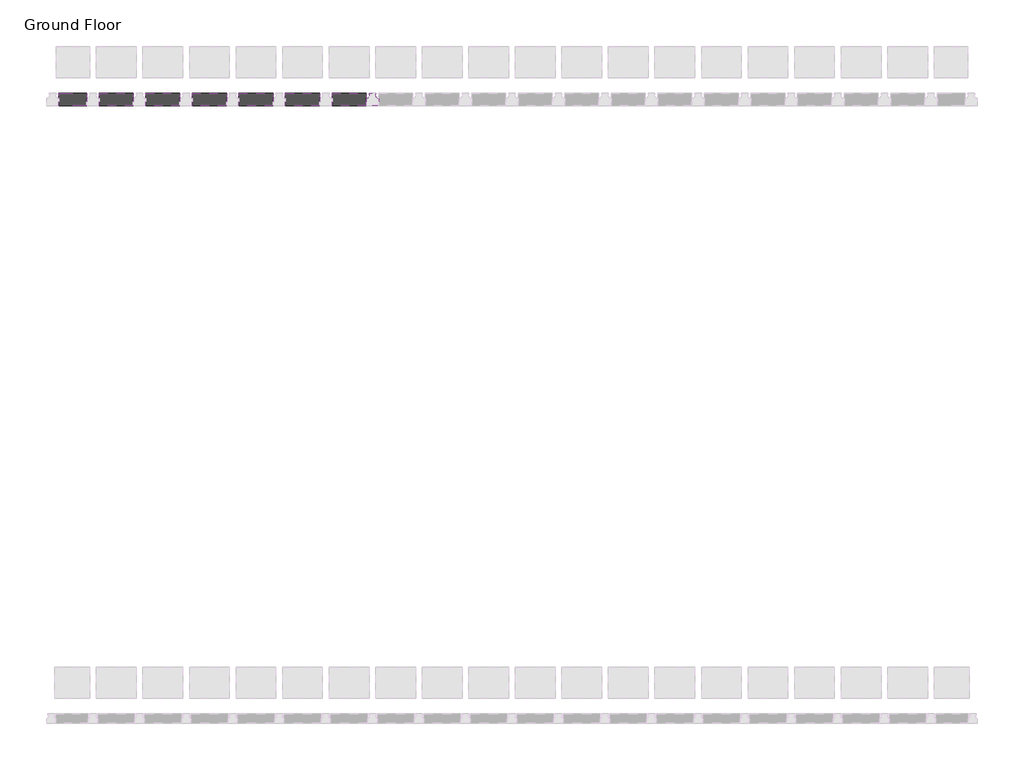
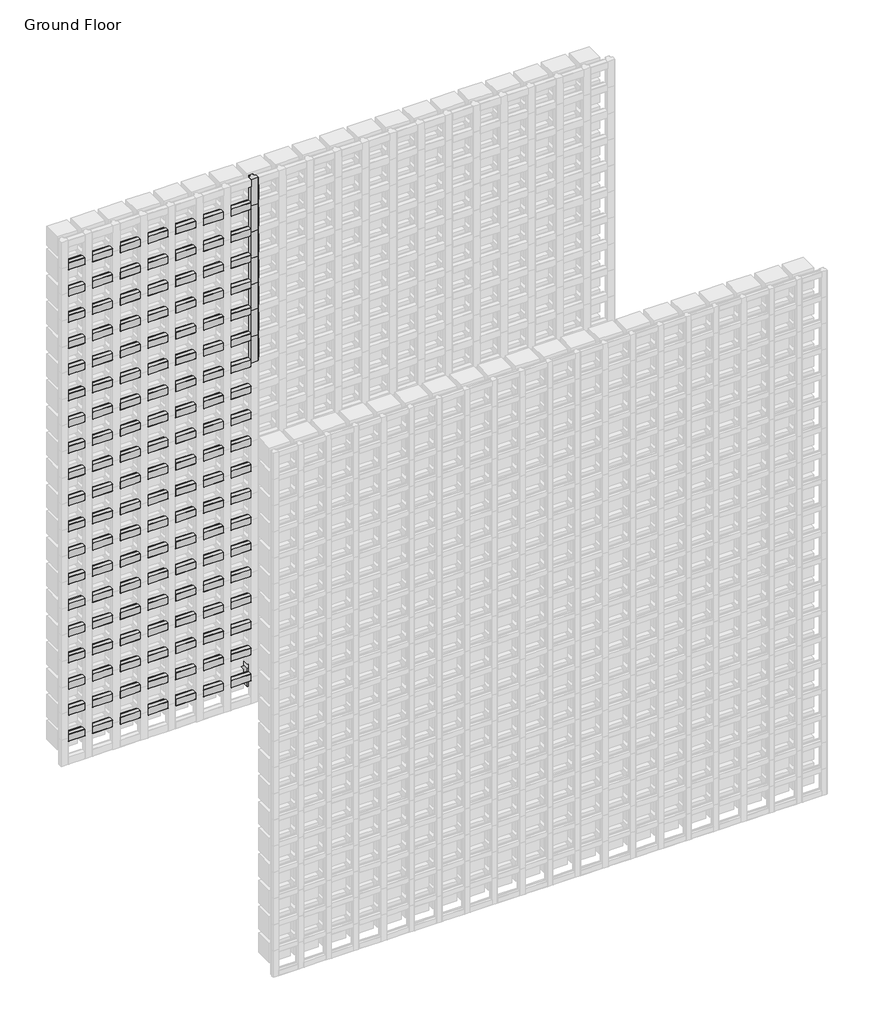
# One storey, part 111 of 350: 140 members, 4 plates.
"""IFC4 building model written with IfcOpenShell, lengths in millimetres."""

from ifc_helpers import new_model, si_unit, origin, place, context, project, spatial, transform, mapped, element, save
from components import rectangular_mullion_84e0df2e, rectangular_mullion_196cc38a, rectangular_mullion_c1c7f7ba, empty_system_panel_empty_5e80e148

model = new_model("IFC4")

# Units and contexts
model_context = context("Model", 3, world=origin())
ifc_project = project(units=[si_unit("LENGTHUNIT", "METRE", prefix="MILLI")], contexts=[model_context])

# Site, building, storey
site = spatial("IfcSite", under=ifc_project)
building = spatial("IfcBuilding", under=site)
storey = spatial("IfcBuildingStorey", under=building, Name="Ground Floor", Elevation=0.0)

# Members
placement = place(None, origin())
rectangular_mullion_shape = rectangular_mullion_84e0df2e(model_context)
element("IfcMember", 1, ObjectType="Rectangular Mullion : Batten_Timber_Modinex_Austratus_Grid_Fin_40x40_AlaskanYellowCedar", at=placement, inside=storey, context=model_context, shape_type="MappedRepresentation", body=[
    mapped(rectangular_mullion_shape, transform((2966.4361642, 44968.2978302, 1950.0), x_axis=(1.0, 0.0, 0.0), y_axis=(0.0, -1.0, 0.0), z_axis=(0.0, 0.0, -1.0))),
])
element("IfcMember", 2, ObjectType="Rectangular Mullion : Batten_Timber_Modinex_Austratus_Grid_Fin_40x40_AlaskanYellowCedar", at=placement, inside=storey, context=model_context, shape_type="MappedRepresentation", body=[
    mapped(rectangular_mullion_shape, transform((2966.4361642, 44968.2978302, 2100.0), x_axis=(1.0, 0.0, 0.0), y_axis=(0.0, -1.0, 0.0), z_axis=(0.0, 0.0, -1.0))),
])
element("IfcMember", 3, ObjectType="Rectangular Mullion : Batten_Timber_Modinex_Austratus_Grid_Fin_40x40_AlaskanYellowCedar", at=placement, inside=storey, context=model_context, shape_type="MappedRepresentation", body=[
    mapped(rectangular_mullion_shape, transform((2966.4361642, 44968.2978302, 2250.0), x_axis=(1.0, 0.0, 0.0), y_axis=(0.0, -1.0, 0.0), z_axis=(0.0, 0.0, -1.0))),
])
element("IfcMember", 4, ObjectType="Rectangular Mullion : Batten_Timber_Modinex_Austratus_Grid_Fin_40x40_AlaskanYellowCedar", at=placement, inside=storey, context=model_context, shape_type="MappedRepresentation", body=[
    mapped(rectangular_mullion_shape, transform((2966.4361642, 44968.2978302, 2400.0), x_axis=(1.0, 0.0, 0.0), y_axis=(0.0, -1.0, 0.0), z_axis=(0.0, 0.0, -1.0))),
])
element("IfcMember", 5, ObjectType="Rectangular Mullion : Batten_Timber_Modinex_Austratus_Grid_Fin_40x40_AlaskanYellowCedar", at=placement, inside=storey, context=model_context, shape_type="MappedRepresentation", body=[
    mapped(rectangular_mullion_shape, transform((2966.4361642, 44968.2978302, 2550.0), x_axis=(1.0, 0.0, 0.0), y_axis=(0.0, -1.0, 0.0), z_axis=(0.0, 0.0, -1.0))),
])
element("IfcMember", 6, ObjectType="Rectangular Mullion : Batten_Timber_Modinex_Austratus_Grid_Fin_40x40_AlaskanYellowCedar", at=placement, inside=storey, context=model_context, shape_type="MappedRepresentation", body=[
    mapped(rectangular_mullion_shape, transform((2966.4361642, 44968.2978302, 2700.0), x_axis=(1.0, 0.0, 0.0), y_axis=(0.0, -1.0, 0.0), z_axis=(0.0, 0.0, -1.0))),
])
element("IfcMember", 7, ObjectType="Rectangular Mullion : Batten_Timber_Modinex_Austratus_Grid_Fin_40x40_AlaskanYellowCedar", at=placement, inside=storey, context=model_context, shape_type="MappedRepresentation", body=[
    mapped(rectangular_mullion_shape, transform((2966.4361642, 44968.2978302, 2850.0), x_axis=(1.0, 0.0, 0.0), y_axis=(0.0, -1.0, 0.0), z_axis=(0.0, 0.0, -1.0))),
])
rectangular_mullion_2_shape = rectangular_mullion_196cc38a(model_context)
element("IfcMember", 8, ObjectType="Rectangular Mullion : Batten_Timber_Modinex_Austratus_Grid_Fin_40x40_AlaskanYellowCedar", at=placement, inside=storey, context=model_context, shape_type="MappedRepresentation", body=[
    mapped(rectangular_mullion_2_shape, transform((2046.4361642, 44968.2978302, 150.0), x_axis=(0.0, 0.0, 1.0), y_axis=(0.0, -1.0, 0.0), z_axis=(1.0, 0.0, 0.0))),
])
element("IfcMember", 9, ObjectType="Rectangular Mullion : Batten_Timber_Modinex_Austratus_Grid_Fin_40x40_AlaskanYellowCedar", at=placement, inside=storey, context=model_context, shape_type="MappedRepresentation", body=[
    mapped(rectangular_mullion_2_shape, transform((2046.4361642, 44968.2978302, 300.0), x_axis=(0.0, 0.0, 1.0), y_axis=(0.0, -1.0, 0.0), z_axis=(1.0, 0.0, 0.0))),
])
element("IfcMember", 10, ObjectType="Rectangular Mullion : Batten_Timber_Modinex_Austratus_Grid_Fin_40x40_AlaskanYellowCedar", at=placement, inside=storey, context=model_context, shape_type="MappedRepresentation", body=[
    mapped(rectangular_mullion_2_shape, transform((2046.4361642, 44968.2978302, 450.0), x_axis=(0.0, 0.0, 1.0), y_axis=(0.0, -1.0, 0.0), z_axis=(1.0, 0.0, 0.0))),
])
element("IfcMember", 11, ObjectType="Rectangular Mullion : Batten_Timber_Modinex_Austratus_Grid_Fin_40x40_AlaskanYellowCedar", at=placement, inside=storey, context=model_context, shape_type="MappedRepresentation", body=[
    mapped(rectangular_mullion_2_shape, transform((2046.4361642, 44968.2978302, 600.0), x_axis=(0.0, 0.0, 1.0), y_axis=(0.0, -1.0, 0.0), z_axis=(1.0, 0.0, 0.0))),
])
element("IfcMember", 12, ObjectType="Rectangular Mullion : Batten_Timber_Modinex_Austratus_Grid_Fin_40x40_AlaskanYellowCedar", at=placement, inside=storey, context=model_context, shape_type="MappedRepresentation", body=[
    mapped(rectangular_mullion_2_shape, transform((2046.4361642, 44968.2978302, 750.0), x_axis=(0.0, 0.0, 1.0), y_axis=(0.0, -1.0, 0.0), z_axis=(1.0, 0.0, 0.0))),
])
element("IfcMember", 13, ObjectType="Rectangular Mullion : Batten_Timber_Modinex_Austratus_Grid_Fin_40x40_AlaskanYellowCedar", at=placement, inside=storey, context=model_context, shape_type="MappedRepresentation", body=[
    mapped(rectangular_mullion_2_shape, transform((2046.4361642, 44968.2978302, 900.0), x_axis=(0.0, 0.0, 1.0), y_axis=(0.0, -1.0, 0.0), z_axis=(1.0, 0.0, 0.0))),
])
element("IfcMember", 14, ObjectType="Rectangular Mullion : Batten_Timber_Modinex_Austratus_Grid_Fin_40x40_AlaskanYellowCedar", at=placement, inside=storey, context=model_context, shape_type="MappedRepresentation", body=[
    mapped(rectangular_mullion_2_shape, transform((2046.4361642, 44968.2978302, 1050.0), x_axis=(0.0, 0.0, 1.0), y_axis=(0.0, -1.0, 0.0), z_axis=(1.0, 0.0, 0.0))),
])
element("IfcMember", 15, ObjectType="Rectangular Mullion : Batten_Timber_Modinex_Austratus_Grid_Fin_40x40_AlaskanYellowCedar", at=placement, inside=storey, context=model_context, shape_type="MappedRepresentation", body=[
    mapped(rectangular_mullion_2_shape, transform((2046.4361642, 44968.2978302, 1200.0), x_axis=(0.0, 0.0, 1.0), y_axis=(0.0, -1.0, 0.0), z_axis=(1.0, 0.0, 0.0))),
])
element("IfcMember", 16, ObjectType="Rectangular Mullion : Batten_Timber_Modinex_Austratus_Grid_Fin_40x40_AlaskanYellowCedar", at=placement, inside=storey, context=model_context, shape_type="MappedRepresentation", body=[
    mapped(rectangular_mullion_2_shape, transform((2046.4361642, 44968.2978302, 1350.0), x_axis=(0.0, 0.0, 1.0), y_axis=(0.0, -1.0, 0.0), z_axis=(1.0, 0.0, 0.0))),
])
element("IfcMember", 17, ObjectType="Rectangular Mullion : Batten_Timber_Modinex_Austratus_Grid_Fin_40x40_AlaskanYellowCedar", at=placement, inside=storey, context=model_context, shape_type="MappedRepresentation", body=[
    mapped(rectangular_mullion_2_shape, transform((2046.4361642, 44968.2978302, 1500.0), x_axis=(0.0, 0.0, 1.0), y_axis=(0.0, -1.0, 0.0), z_axis=(1.0, 0.0, 0.0))),
])
element("IfcMember", 18, ObjectType="Rectangular Mullion : Batten_Timber_Modinex_Austratus_Grid_Fin_40x40_AlaskanYellowCedar", at=placement, inside=storey, context=model_context, shape_type="MappedRepresentation", body=[
    mapped(rectangular_mullion_2_shape, transform((2046.4361642, 44968.2978302, 1650.0), x_axis=(0.0, 0.0, 1.0), y_axis=(0.0, -1.0, 0.0), z_axis=(1.0, 0.0, 0.0))),
])
element("IfcMember", 19, ObjectType="Rectangular Mullion : Batten_Timber_Modinex_Austratus_Grid_Fin_40x40_AlaskanYellowCedar", at=placement, inside=storey, context=model_context, shape_type="MappedRepresentation", body=[
    mapped(rectangular_mullion_2_shape, transform((2046.4361642, 44968.2978302, 1800.0), x_axis=(0.0, 0.0, 1.0), y_axis=(0.0, -1.0, 0.0), z_axis=(1.0, 0.0, 0.0))),
])
element("IfcMember", 20, ObjectType="Rectangular Mullion : Batten_Timber_Modinex_Austratus_Grid_Fin_40x40_AlaskanYellowCedar", at=placement, inside=storey, context=model_context, shape_type="MappedRepresentation", body=[
    mapped(rectangular_mullion_2_shape, transform((2046.4361642, 44968.2978302, 1950.0), x_axis=(0.0, 0.0, 1.0), y_axis=(0.0, -1.0, 0.0), z_axis=(1.0, 0.0, 0.0))),
])
element("IfcMember", 21, ObjectType="Rectangular Mullion : Batten_Timber_Modinex_Austratus_Grid_Fin_40x40_AlaskanYellowCedar", at=placement, inside=storey, context=model_context, shape_type="MappedRepresentation", body=[
    mapped(rectangular_mullion_2_shape, transform((2046.4361642, 44968.2978302, 2100.0), x_axis=(0.0, 0.0, 1.0), y_axis=(0.0, -1.0, 0.0), z_axis=(1.0, 0.0, 0.0))),
])
element("IfcMember", 22, ObjectType="Rectangular Mullion : Batten_Timber_Modinex_Austratus_Grid_Fin_40x40_AlaskanYellowCedar", at=placement, inside=storey, context=model_context, shape_type="MappedRepresentation", body=[
    mapped(rectangular_mullion_2_shape, transform((2046.4361642, 44968.2978302, 2250.0), x_axis=(0.0, 0.0, 1.0), y_axis=(0.0, -1.0, 0.0), z_axis=(1.0, 0.0, 0.0))),
])
element("IfcMember", 23, ObjectType="Rectangular Mullion : Batten_Timber_Modinex_Austratus_Grid_Fin_40x40_AlaskanYellowCedar", at=placement, inside=storey, context=model_context, shape_type="MappedRepresentation", body=[
    mapped(rectangular_mullion_2_shape, transform((2046.4361642, 44968.2978302, 2400.0), x_axis=(0.0, 0.0, 1.0), y_axis=(0.0, -1.0, 0.0), z_axis=(1.0, 0.0, 0.0))),
])
element("IfcMember", 24, ObjectType="Rectangular Mullion : Batten_Timber_Modinex_Austratus_Grid_Fin_40x40_AlaskanYellowCedar", at=placement, inside=storey, context=model_context, shape_type="MappedRepresentation", body=[
    mapped(rectangular_mullion_2_shape, transform((2046.4361642, 44968.2978302, 2550.0), x_axis=(0.0, 0.0, 1.0), y_axis=(0.0, -1.0, 0.0), z_axis=(1.0, 0.0, 0.0))),
])
element("IfcMember", 25, ObjectType="Rectangular Mullion : Batten_Timber_Modinex_Austratus_Grid_Fin_40x40_AlaskanYellowCedar", at=placement, inside=storey, context=model_context, shape_type="MappedRepresentation", body=[
    mapped(rectangular_mullion_2_shape, transform((2046.4361642, 44968.2978302, 2700.0), x_axis=(0.0, 0.0, 1.0), y_axis=(0.0, -1.0, 0.0), z_axis=(1.0, 0.0, 0.0))),
])
element("IfcMember", 26, ObjectType="Rectangular Mullion : Batten_Timber_Modinex_Austratus_Grid_Fin_40x40_AlaskanYellowCedar", at=placement, inside=storey, context=model_context, shape_type="MappedRepresentation", body=[
    mapped(rectangular_mullion_2_shape, transform((2046.4361642, 44968.2978302, 2850.0), x_axis=(0.0, 0.0, 1.0), y_axis=(0.0, -1.0, 0.0), z_axis=(1.0, 0.0, 0.0))),
])
rectangular_mullion_3_shape = rectangular_mullion_c1c7f7ba(model_context)
element("IfcMember", 27, ObjectType="Rectangular Mullion : Batten_Timber_Modinex_Austratus_Grid_Fin_40x40_AlaskanYellowCedar", at=placement, inside=storey, context=model_context, shape_type="MappedRepresentation", body=[
    mapped(rectangular_mullion_3_shape, transform((2196.4361642, 44968.2978302, 150.0), x_axis=(0.0, 0.0, 1.0), y_axis=(0.0, -1.0, 0.0), z_axis=(1.0, 0.0, 0.0))),
])
element("IfcMember", 28, ObjectType="Rectangular Mullion : Batten_Timber_Modinex_Austratus_Grid_Fin_40x40_AlaskanYellowCedar", at=placement, inside=storey, context=model_context, shape_type="MappedRepresentation", body=[
    mapped(rectangular_mullion_3_shape, transform((2346.4361642, 44968.2978302, 150.0), x_axis=(0.0, 0.0, 1.0), y_axis=(0.0, -1.0, 0.0), z_axis=(1.0, 0.0, 0.0))),
])
element("IfcMember", 29, ObjectType="Rectangular Mullion : Batten_Timber_Modinex_Austratus_Grid_Fin_40x40_AlaskanYellowCedar", at=placement, inside=storey, context=model_context, shape_type="MappedRepresentation", body=[
    mapped(rectangular_mullion_3_shape, transform((2496.4361642, 44968.2978302, 150.0), x_axis=(0.0, 0.0, 1.0), y_axis=(0.0, -1.0, 0.0), z_axis=(1.0, 0.0, 0.0))),
])
element("IfcMember", 30, ObjectType="Rectangular Mullion : Batten_Timber_Modinex_Austratus_Grid_Fin_40x40_AlaskanYellowCedar", at=placement, inside=storey, context=model_context, shape_type="MappedRepresentation", body=[
    mapped(rectangular_mullion_3_shape, transform((2646.4361642, 44968.2978302, 150.0), x_axis=(0.0, 0.0, 1.0), y_axis=(0.0, -1.0, 0.0), z_axis=(1.0, 0.0, 0.0))),
])
element("IfcMember", 31, ObjectType="Rectangular Mullion : Batten_Timber_Modinex_Austratus_Grid_Fin_40x40_AlaskanYellowCedar", at=placement, inside=storey, context=model_context, shape_type="MappedRepresentation", body=[
    mapped(rectangular_mullion_3_shape, transform((2796.4361642, 44968.2978302, 150.0), x_axis=(0.0, 0.0, 1.0), y_axis=(0.0, -1.0, 0.0), z_axis=(1.0, 0.0, 0.0))),
])
element("IfcMember", 32, ObjectType="Rectangular Mullion : Batten_Timber_Modinex_Austratus_Grid_Fin_40x40_AlaskanYellowCedar", at=placement, inside=storey, context=model_context, shape_type="MappedRepresentation", body=[
    mapped(rectangular_mullion_3_shape, transform((2946.4361642, 44968.2978302, 150.0), x_axis=(0.0, 0.0, 1.0), y_axis=(0.0, -1.0, 0.0), z_axis=(1.0, 0.0, 0.0))),
])
element("IfcMember", 33, ObjectType="Rectangular Mullion : Batten_Timber_Modinex_Austratus_Grid_Fin_40x40_AlaskanYellowCedar", at=placement, inside=storey, context=model_context, shape_type="MappedRepresentation", body=[
    mapped(rectangular_mullion_3_shape, transform((2196.4361642, 44968.2978302, 300.0), x_axis=(0.0, 0.0, 1.0), y_axis=(0.0, -1.0, 0.0), z_axis=(1.0, 0.0, 0.0))),
])
element("IfcMember", 34, ObjectType="Rectangular Mullion : Batten_Timber_Modinex_Austratus_Grid_Fin_40x40_AlaskanYellowCedar", at=placement, inside=storey, context=model_context, shape_type="MappedRepresentation", body=[
    mapped(rectangular_mullion_3_shape, transform((2346.4361642, 44968.2978302, 300.0), x_axis=(0.0, 0.0, 1.0), y_axis=(0.0, -1.0, 0.0), z_axis=(1.0, 0.0, 0.0))),
])
element("IfcMember", 35, ObjectType="Rectangular Mullion : Batten_Timber_Modinex_Austratus_Grid_Fin_40x40_AlaskanYellowCedar", at=placement, inside=storey, context=model_context, shape_type="MappedRepresentation", body=[
    mapped(rectangular_mullion_3_shape, transform((2496.4361642, 44968.2978302, 300.0), x_axis=(0.0, 0.0, 1.0), y_axis=(0.0, -1.0, 0.0), z_axis=(1.0, 0.0, 0.0))),
])
element("IfcMember", 36, ObjectType="Rectangular Mullion : Batten_Timber_Modinex_Austratus_Grid_Fin_40x40_AlaskanYellowCedar", at=placement, inside=storey, context=model_context, shape_type="MappedRepresentation", body=[
    mapped(rectangular_mullion_3_shape, transform((2646.4361642, 44968.2978302, 300.0), x_axis=(0.0, 0.0, 1.0), y_axis=(0.0, -1.0, 0.0), z_axis=(1.0, 0.0, 0.0))),
])
element("IfcMember", 37, ObjectType="Rectangular Mullion : Batten_Timber_Modinex_Austratus_Grid_Fin_40x40_AlaskanYellowCedar", at=placement, inside=storey, context=model_context, shape_type="MappedRepresentation", body=[
    mapped(rectangular_mullion_3_shape, transform((2796.4361642, 44968.2978302, 300.0), x_axis=(0.0, 0.0, 1.0), y_axis=(0.0, -1.0, 0.0), z_axis=(1.0, 0.0, 0.0))),
])
element("IfcMember", 38, ObjectType="Rectangular Mullion : Batten_Timber_Modinex_Austratus_Grid_Fin_40x40_AlaskanYellowCedar", at=placement, inside=storey, context=model_context, shape_type="MappedRepresentation", body=[
    mapped(rectangular_mullion_3_shape, transform((2946.4361642, 44968.2978302, 300.0), x_axis=(0.0, 0.0, 1.0), y_axis=(0.0, -1.0, 0.0), z_axis=(1.0, 0.0, 0.0))),
])
element("IfcMember", 39, ObjectType="Rectangular Mullion : Batten_Timber_Modinex_Austratus_Grid_Fin_40x40_AlaskanYellowCedar", at=placement, inside=storey, context=model_context, shape_type="MappedRepresentation", body=[
    mapped(rectangular_mullion_3_shape, transform((2196.4361642, 44968.2978302, 450.0), x_axis=(0.0, 0.0, 1.0), y_axis=(0.0, -1.0, 0.0), z_axis=(1.0, 0.0, 0.0))),
])
element("IfcMember", 40, ObjectType="Rectangular Mullion : Batten_Timber_Modinex_Austratus_Grid_Fin_40x40_AlaskanYellowCedar", at=placement, inside=storey, context=model_context, shape_type="MappedRepresentation", body=[
    mapped(rectangular_mullion_3_shape, transform((2346.4361642, 44968.2978302, 450.0), x_axis=(0.0, 0.0, 1.0), y_axis=(0.0, -1.0, 0.0), z_axis=(1.0, 0.0, 0.0))),
])
element("IfcMember", 41, ObjectType="Rectangular Mullion : Batten_Timber_Modinex_Austratus_Grid_Fin_40x40_AlaskanYellowCedar", at=placement, inside=storey, context=model_context, shape_type="MappedRepresentation", body=[
    mapped(rectangular_mullion_3_shape, transform((2496.4361642, 44968.2978302, 450.0), x_axis=(0.0, 0.0, 1.0), y_axis=(0.0, -1.0, 0.0), z_axis=(1.0, 0.0, 0.0))),
])
element("IfcMember", 42, ObjectType="Rectangular Mullion : Batten_Timber_Modinex_Austratus_Grid_Fin_40x40_AlaskanYellowCedar", at=placement, inside=storey, context=model_context, shape_type="MappedRepresentation", body=[
    mapped(rectangular_mullion_3_shape, transform((2646.4361642, 44968.2978302, 450.0), x_axis=(0.0, 0.0, 1.0), y_axis=(0.0, -1.0, 0.0), z_axis=(1.0, 0.0, 0.0))),
])
element("IfcMember", 43, ObjectType="Rectangular Mullion : Batten_Timber_Modinex_Austratus_Grid_Fin_40x40_AlaskanYellowCedar", at=placement, inside=storey, context=model_context, shape_type="MappedRepresentation", body=[
    mapped(rectangular_mullion_3_shape, transform((2796.4361642, 44968.2978302, 450.0), x_axis=(0.0, 0.0, 1.0), y_axis=(0.0, -1.0, 0.0), z_axis=(1.0, 0.0, 0.0))),
])
element("IfcMember", 44, ObjectType="Rectangular Mullion : Batten_Timber_Modinex_Austratus_Grid_Fin_40x40_AlaskanYellowCedar", at=placement, inside=storey, context=model_context, shape_type="MappedRepresentation", body=[
    mapped(rectangular_mullion_3_shape, transform((2946.4361642, 44968.2978302, 450.0), x_axis=(0.0, 0.0, 1.0), y_axis=(0.0, -1.0, 0.0), z_axis=(1.0, 0.0, 0.0))),
])
element("IfcMember", 45, ObjectType="Rectangular Mullion : Batten_Timber_Modinex_Austratus_Grid_Fin_40x40_AlaskanYellowCedar", at=placement, inside=storey, context=model_context, shape_type="MappedRepresentation", body=[
    mapped(rectangular_mullion_3_shape, transform((2196.4361642, 44968.2978302, 600.0), x_axis=(0.0, 0.0, 1.0), y_axis=(0.0, -1.0, 0.0), z_axis=(1.0, 0.0, 0.0))),
])
element("IfcMember", 46, ObjectType="Rectangular Mullion : Batten_Timber_Modinex_Austratus_Grid_Fin_40x40_AlaskanYellowCedar", at=placement, inside=storey, context=model_context, shape_type="MappedRepresentation", body=[
    mapped(rectangular_mullion_3_shape, transform((2346.4361642, 44968.2978302, 600.0), x_axis=(0.0, 0.0, 1.0), y_axis=(0.0, -1.0, 0.0), z_axis=(1.0, 0.0, 0.0))),
])
element("IfcMember", 47, ObjectType="Rectangular Mullion : Batten_Timber_Modinex_Austratus_Grid_Fin_40x40_AlaskanYellowCedar", at=placement, inside=storey, context=model_context, shape_type="MappedRepresentation", body=[
    mapped(rectangular_mullion_3_shape, transform((2496.4361642, 44968.2978302, 600.0), x_axis=(0.0, 0.0, 1.0), y_axis=(0.0, -1.0, 0.0), z_axis=(1.0, 0.0, 0.0))),
])
element("IfcMember", 48, ObjectType="Rectangular Mullion : Batten_Timber_Modinex_Austratus_Grid_Fin_40x40_AlaskanYellowCedar", at=placement, inside=storey, context=model_context, shape_type="MappedRepresentation", body=[
    mapped(rectangular_mullion_3_shape, transform((2646.4361642, 44968.2978302, 600.0), x_axis=(0.0, 0.0, 1.0), y_axis=(0.0, -1.0, 0.0), z_axis=(1.0, 0.0, 0.0))),
])
element("IfcMember", 49, ObjectType="Rectangular Mullion : Batten_Timber_Modinex_Austratus_Grid_Fin_40x40_AlaskanYellowCedar", at=placement, inside=storey, context=model_context, shape_type="MappedRepresentation", body=[
    mapped(rectangular_mullion_3_shape, transform((2796.4361642, 44968.2978302, 600.0), x_axis=(0.0, 0.0, 1.0), y_axis=(0.0, -1.0, 0.0), z_axis=(1.0, 0.0, 0.0))),
])
element("IfcMember", 50, ObjectType="Rectangular Mullion : Batten_Timber_Modinex_Austratus_Grid_Fin_40x40_AlaskanYellowCedar", at=placement, inside=storey, context=model_context, shape_type="MappedRepresentation", body=[
    mapped(rectangular_mullion_3_shape, transform((2946.4361642, 44968.2978302, 600.0), x_axis=(0.0, 0.0, 1.0), y_axis=(0.0, -1.0, 0.0), z_axis=(1.0, 0.0, 0.0))),
])
element("IfcMember", 51, ObjectType="Rectangular Mullion : Batten_Timber_Modinex_Austratus_Grid_Fin_40x40_AlaskanYellowCedar", at=placement, inside=storey, context=model_context, shape_type="MappedRepresentation", body=[
    mapped(rectangular_mullion_3_shape, transform((2196.4361642, 44968.2978302, 750.0), x_axis=(0.0, 0.0, 1.0), y_axis=(0.0, -1.0, 0.0), z_axis=(1.0, 0.0, 0.0))),
])
element("IfcMember", 52, ObjectType="Rectangular Mullion : Batten_Timber_Modinex_Austratus_Grid_Fin_40x40_AlaskanYellowCedar", at=placement, inside=storey, context=model_context, shape_type="MappedRepresentation", body=[
    mapped(rectangular_mullion_3_shape, transform((2346.4361642, 44968.2978302, 750.0), x_axis=(0.0, 0.0, 1.0), y_axis=(0.0, -1.0, 0.0), z_axis=(1.0, 0.0, 0.0))),
])
element("IfcMember", 53, ObjectType="Rectangular Mullion : Batten_Timber_Modinex_Austratus_Grid_Fin_40x40_AlaskanYellowCedar", at=placement, inside=storey, context=model_context, shape_type="MappedRepresentation", body=[
    mapped(rectangular_mullion_3_shape, transform((2496.4361642, 44968.2978302, 750.0), x_axis=(0.0, 0.0, 1.0), y_axis=(0.0, -1.0, 0.0), z_axis=(1.0, 0.0, 0.0))),
])
element("IfcMember", 54, ObjectType="Rectangular Mullion : Batten_Timber_Modinex_Austratus_Grid_Fin_40x40_AlaskanYellowCedar", at=placement, inside=storey, context=model_context, shape_type="MappedRepresentation", body=[
    mapped(rectangular_mullion_3_shape, transform((2646.4361642, 44968.2978302, 750.0), x_axis=(0.0, 0.0, 1.0), y_axis=(0.0, -1.0, 0.0), z_axis=(1.0, 0.0, 0.0))),
])
element("IfcMember", 55, ObjectType="Rectangular Mullion : Batten_Timber_Modinex_Austratus_Grid_Fin_40x40_AlaskanYellowCedar", at=placement, inside=storey, context=model_context, shape_type="MappedRepresentation", body=[
    mapped(rectangular_mullion_3_shape, transform((2796.4361642, 44968.2978302, 750.0), x_axis=(0.0, 0.0, 1.0), y_axis=(0.0, -1.0, 0.0), z_axis=(1.0, 0.0, 0.0))),
])
element("IfcMember", 56, ObjectType="Rectangular Mullion : Batten_Timber_Modinex_Austratus_Grid_Fin_40x40_AlaskanYellowCedar", at=placement, inside=storey, context=model_context, shape_type="MappedRepresentation", body=[
    mapped(rectangular_mullion_3_shape, transform((2946.4361642, 44968.2978302, 750.0), x_axis=(0.0, 0.0, 1.0), y_axis=(0.0, -1.0, 0.0), z_axis=(1.0, 0.0, 0.0))),
])
element("IfcMember", 57, ObjectType="Rectangular Mullion : Batten_Timber_Modinex_Austratus_Grid_Fin_40x40_AlaskanYellowCedar", at=placement, inside=storey, context=model_context, shape_type="MappedRepresentation", body=[
    mapped(rectangular_mullion_3_shape, transform((2196.4361642, 44968.2978302, 900.0), x_axis=(0.0, 0.0, 1.0), y_axis=(0.0, -1.0, 0.0), z_axis=(1.0, 0.0, 0.0))),
])
element("IfcMember", 58, ObjectType="Rectangular Mullion : Batten_Timber_Modinex_Austratus_Grid_Fin_40x40_AlaskanYellowCedar", at=placement, inside=storey, context=model_context, shape_type="MappedRepresentation", body=[
    mapped(rectangular_mullion_3_shape, transform((2346.4361642, 44968.2978302, 900.0), x_axis=(0.0, 0.0, 1.0), y_axis=(0.0, -1.0, 0.0), z_axis=(1.0, 0.0, 0.0))),
])
element("IfcMember", 59, ObjectType="Rectangular Mullion : Batten_Timber_Modinex_Austratus_Grid_Fin_40x40_AlaskanYellowCedar", at=placement, inside=storey, context=model_context, shape_type="MappedRepresentation", body=[
    mapped(rectangular_mullion_3_shape, transform((2496.4361642, 44968.2978302, 900.0), x_axis=(0.0, 0.0, 1.0), y_axis=(0.0, -1.0, 0.0), z_axis=(1.0, 0.0, 0.0))),
])
element("IfcMember", 60, ObjectType="Rectangular Mullion : Batten_Timber_Modinex_Austratus_Grid_Fin_40x40_AlaskanYellowCedar", at=placement, inside=storey, context=model_context, shape_type="MappedRepresentation", body=[
    mapped(rectangular_mullion_3_shape, transform((2646.4361642, 44968.2978302, 900.0), x_axis=(0.0, 0.0, 1.0), y_axis=(0.0, -1.0, 0.0), z_axis=(1.0, 0.0, 0.0))),
])
element("IfcMember", 61, ObjectType="Rectangular Mullion : Batten_Timber_Modinex_Austratus_Grid_Fin_40x40_AlaskanYellowCedar", at=placement, inside=storey, context=model_context, shape_type="MappedRepresentation", body=[
    mapped(rectangular_mullion_3_shape, transform((2796.4361642, 44968.2978302, 900.0), x_axis=(0.0, 0.0, 1.0), y_axis=(0.0, -1.0, 0.0), z_axis=(1.0, 0.0, 0.0))),
])
element("IfcMember", 62, ObjectType="Rectangular Mullion : Batten_Timber_Modinex_Austratus_Grid_Fin_40x40_AlaskanYellowCedar", at=placement, inside=storey, context=model_context, shape_type="MappedRepresentation", body=[
    mapped(rectangular_mullion_3_shape, transform((2946.4361642, 44968.2978302, 900.0), x_axis=(0.0, 0.0, 1.0), y_axis=(0.0, -1.0, 0.0), z_axis=(1.0, 0.0, 0.0))),
])
element("IfcMember", 63, ObjectType="Rectangular Mullion : Batten_Timber_Modinex_Austratus_Grid_Fin_40x40_AlaskanYellowCedar", at=placement, inside=storey, context=model_context, shape_type="MappedRepresentation", body=[
    mapped(rectangular_mullion_3_shape, transform((2196.4361642, 44968.2978302, 1050.0), x_axis=(0.0, 0.0, 1.0), y_axis=(0.0, -1.0, 0.0), z_axis=(1.0, 0.0, 0.0))),
])
element("IfcMember", 64, ObjectType="Rectangular Mullion : Batten_Timber_Modinex_Austratus_Grid_Fin_40x40_AlaskanYellowCedar", at=placement, inside=storey, context=model_context, shape_type="MappedRepresentation", body=[
    mapped(rectangular_mullion_3_shape, transform((2346.4361642, 44968.2978302, 1050.0), x_axis=(0.0, 0.0, 1.0), y_axis=(0.0, -1.0, 0.0), z_axis=(1.0, 0.0, 0.0))),
])
element("IfcMember", 65, ObjectType="Rectangular Mullion : Batten_Timber_Modinex_Austratus_Grid_Fin_40x40_AlaskanYellowCedar", at=placement, inside=storey, context=model_context, shape_type="MappedRepresentation", body=[
    mapped(rectangular_mullion_3_shape, transform((2496.4361642, 44968.2978302, 1050.0), x_axis=(0.0, 0.0, 1.0), y_axis=(0.0, -1.0, 0.0), z_axis=(1.0, 0.0, 0.0))),
])
element("IfcMember", 66, ObjectType="Rectangular Mullion : Batten_Timber_Modinex_Austratus_Grid_Fin_40x40_AlaskanYellowCedar", at=placement, inside=storey, context=model_context, shape_type="MappedRepresentation", body=[
    mapped(rectangular_mullion_3_shape, transform((2646.4361642, 44968.2978302, 1050.0), x_axis=(0.0, 0.0, 1.0), y_axis=(0.0, -1.0, 0.0), z_axis=(1.0, 0.0, 0.0))),
])
element("IfcMember", 67, ObjectType="Rectangular Mullion : Batten_Timber_Modinex_Austratus_Grid_Fin_40x40_AlaskanYellowCedar", at=placement, inside=storey, context=model_context, shape_type="MappedRepresentation", body=[
    mapped(rectangular_mullion_3_shape, transform((2796.4361642, 44968.2978302, 1050.0), x_axis=(0.0, 0.0, 1.0), y_axis=(0.0, -1.0, 0.0), z_axis=(1.0, 0.0, 0.0))),
])
element("IfcMember", 68, ObjectType="Rectangular Mullion : Batten_Timber_Modinex_Austratus_Grid_Fin_40x40_AlaskanYellowCedar", at=placement, inside=storey, context=model_context, shape_type="MappedRepresentation", body=[
    mapped(rectangular_mullion_3_shape, transform((2946.4361642, 44968.2978302, 1050.0), x_axis=(0.0, 0.0, 1.0), y_axis=(0.0, -1.0, 0.0), z_axis=(1.0, 0.0, 0.0))),
])
element("IfcMember", 69, ObjectType="Rectangular Mullion : Batten_Timber_Modinex_Austratus_Grid_Fin_40x40_AlaskanYellowCedar", at=placement, inside=storey, context=model_context, shape_type="MappedRepresentation", body=[
    mapped(rectangular_mullion_3_shape, transform((2196.4361642, 44968.2978302, 1200.0), x_axis=(0.0, 0.0, 1.0), y_axis=(0.0, -1.0, 0.0), z_axis=(1.0, 0.0, 0.0))),
])
element("IfcMember", 70, ObjectType="Rectangular Mullion : Batten_Timber_Modinex_Austratus_Grid_Fin_40x40_AlaskanYellowCedar", at=placement, inside=storey, context=model_context, shape_type="MappedRepresentation", body=[
    mapped(rectangular_mullion_3_shape, transform((2346.4361642, 44968.2978302, 1200.0), x_axis=(0.0, 0.0, 1.0), y_axis=(0.0, -1.0, 0.0), z_axis=(1.0, 0.0, 0.0))),
])
element("IfcMember", 71, ObjectType="Rectangular Mullion : Batten_Timber_Modinex_Austratus_Grid_Fin_40x40_AlaskanYellowCedar", at=placement, inside=storey, context=model_context, shape_type="MappedRepresentation", body=[
    mapped(rectangular_mullion_3_shape, transform((2496.4361642, 44968.2978302, 1200.0), x_axis=(0.0, 0.0, 1.0), y_axis=(0.0, -1.0, 0.0), z_axis=(1.0, 0.0, 0.0))),
])
element("IfcMember", 72, ObjectType="Rectangular Mullion : Batten_Timber_Modinex_Austratus_Grid_Fin_40x40_AlaskanYellowCedar", at=placement, inside=storey, context=model_context, shape_type="MappedRepresentation", body=[
    mapped(rectangular_mullion_3_shape, transform((2646.4361642, 44968.2978302, 1200.0), x_axis=(0.0, 0.0, 1.0), y_axis=(0.0, -1.0, 0.0), z_axis=(1.0, 0.0, 0.0))),
])
element("IfcMember", 73, ObjectType="Rectangular Mullion : Batten_Timber_Modinex_Austratus_Grid_Fin_40x40_AlaskanYellowCedar", at=placement, inside=storey, context=model_context, shape_type="MappedRepresentation", body=[
    mapped(rectangular_mullion_3_shape, transform((2796.4361642, 44968.2978302, 1200.0), x_axis=(0.0, 0.0, 1.0), y_axis=(0.0, -1.0, 0.0), z_axis=(1.0, 0.0, 0.0))),
])
element("IfcMember", 74, ObjectType="Rectangular Mullion : Batten_Timber_Modinex_Austratus_Grid_Fin_40x40_AlaskanYellowCedar", at=placement, inside=storey, context=model_context, shape_type="MappedRepresentation", body=[
    mapped(rectangular_mullion_3_shape, transform((2946.4361642, 44968.2978302, 1200.0), x_axis=(0.0, 0.0, 1.0), y_axis=(0.0, -1.0, 0.0), z_axis=(1.0, 0.0, 0.0))),
])
element("IfcMember", 75, ObjectType="Rectangular Mullion : Batten_Timber_Modinex_Austratus_Grid_Fin_40x40_AlaskanYellowCedar", at=placement, inside=storey, context=model_context, shape_type="MappedRepresentation", body=[
    mapped(rectangular_mullion_3_shape, transform((2196.4361642, 44968.2978302, 1350.0), x_axis=(0.0, 0.0, 1.0), y_axis=(0.0, -1.0, 0.0), z_axis=(1.0, 0.0, 0.0))),
])
element("IfcMember", 76, ObjectType="Rectangular Mullion : Batten_Timber_Modinex_Austratus_Grid_Fin_40x40_AlaskanYellowCedar", at=placement, inside=storey, context=model_context, shape_type="MappedRepresentation", body=[
    mapped(rectangular_mullion_3_shape, transform((2346.4361642, 44968.2978302, 1350.0), x_axis=(0.0, 0.0, 1.0), y_axis=(0.0, -1.0, 0.0), z_axis=(1.0, 0.0, 0.0))),
])
element("IfcMember", 77, ObjectType="Rectangular Mullion : Batten_Timber_Modinex_Austratus_Grid_Fin_40x40_AlaskanYellowCedar", at=placement, inside=storey, context=model_context, shape_type="MappedRepresentation", body=[
    mapped(rectangular_mullion_3_shape, transform((2496.4361642, 44968.2978302, 1350.0), x_axis=(0.0, 0.0, 1.0), y_axis=(0.0, -1.0, 0.0), z_axis=(1.0, 0.0, 0.0))),
])
element("IfcMember", 78, ObjectType="Rectangular Mullion : Batten_Timber_Modinex_Austratus_Grid_Fin_40x40_AlaskanYellowCedar", at=placement, inside=storey, context=model_context, shape_type="MappedRepresentation", body=[
    mapped(rectangular_mullion_3_shape, transform((2646.4361642, 44968.2978302, 1350.0), x_axis=(0.0, 0.0, 1.0), y_axis=(0.0, -1.0, 0.0), z_axis=(1.0, 0.0, 0.0))),
])
element("IfcMember", 79, ObjectType="Rectangular Mullion : Batten_Timber_Modinex_Austratus_Grid_Fin_40x40_AlaskanYellowCedar", at=placement, inside=storey, context=model_context, shape_type="MappedRepresentation", body=[
    mapped(rectangular_mullion_3_shape, transform((2796.4361642, 44968.2978302, 1350.0), x_axis=(0.0, 0.0, 1.0), y_axis=(0.0, -1.0, 0.0), z_axis=(1.0, 0.0, 0.0))),
])
element("IfcMember", 80, ObjectType="Rectangular Mullion : Batten_Timber_Modinex_Austratus_Grid_Fin_40x40_AlaskanYellowCedar", at=placement, inside=storey, context=model_context, shape_type="MappedRepresentation", body=[
    mapped(rectangular_mullion_3_shape, transform((2946.4361642, 44968.2978302, 1350.0), x_axis=(0.0, 0.0, 1.0), y_axis=(0.0, -1.0, 0.0), z_axis=(1.0, 0.0, 0.0))),
])
element("IfcMember", 81, ObjectType="Rectangular Mullion : Batten_Timber_Modinex_Austratus_Grid_Fin_40x40_AlaskanYellowCedar", at=placement, inside=storey, context=model_context, shape_type="MappedRepresentation", body=[
    mapped(rectangular_mullion_3_shape, transform((2196.4361642, 44968.2978302, 1500.0), x_axis=(0.0, 0.0, 1.0), y_axis=(0.0, -1.0, 0.0), z_axis=(1.0, 0.0, 0.0))),
])
element("IfcMember", 82, ObjectType="Rectangular Mullion : Batten_Timber_Modinex_Austratus_Grid_Fin_40x40_AlaskanYellowCedar", at=placement, inside=storey, context=model_context, shape_type="MappedRepresentation", body=[
    mapped(rectangular_mullion_3_shape, transform((2346.4361642, 44968.2978302, 1500.0), x_axis=(0.0, 0.0, 1.0), y_axis=(0.0, -1.0, 0.0), z_axis=(1.0, 0.0, 0.0))),
])
element("IfcMember", 83, ObjectType="Rectangular Mullion : Batten_Timber_Modinex_Austratus_Grid_Fin_40x40_AlaskanYellowCedar", at=placement, inside=storey, context=model_context, shape_type="MappedRepresentation", body=[
    mapped(rectangular_mullion_3_shape, transform((2496.4361642, 44968.2978302, 1500.0), x_axis=(0.0, 0.0, 1.0), y_axis=(0.0, -1.0, 0.0), z_axis=(1.0, 0.0, 0.0))),
])
element("IfcMember", 84, ObjectType="Rectangular Mullion : Batten_Timber_Modinex_Austratus_Grid_Fin_40x40_AlaskanYellowCedar", at=placement, inside=storey, context=model_context, shape_type="MappedRepresentation", body=[
    mapped(rectangular_mullion_3_shape, transform((2646.4361642, 44968.2978302, 1500.0), x_axis=(0.0, 0.0, 1.0), y_axis=(0.0, -1.0, 0.0), z_axis=(1.0, 0.0, 0.0))),
])
element("IfcMember", 85, ObjectType="Rectangular Mullion : Batten_Timber_Modinex_Austratus_Grid_Fin_40x40_AlaskanYellowCedar", at=placement, inside=storey, context=model_context, shape_type="MappedRepresentation", body=[
    mapped(rectangular_mullion_3_shape, transform((2796.4361642, 44968.2978302, 1500.0), x_axis=(0.0, 0.0, 1.0), y_axis=(0.0, -1.0, 0.0), z_axis=(1.0, 0.0, 0.0))),
])
element("IfcMember", 86, ObjectType="Rectangular Mullion : Batten_Timber_Modinex_Austratus_Grid_Fin_40x40_AlaskanYellowCedar", at=placement, inside=storey, context=model_context, shape_type="MappedRepresentation", body=[
    mapped(rectangular_mullion_3_shape, transform((2946.4361642, 44968.2978302, 1500.0), x_axis=(0.0, 0.0, 1.0), y_axis=(0.0, -1.0, 0.0), z_axis=(1.0, 0.0, 0.0))),
])
element("IfcMember", 87, ObjectType="Rectangular Mullion : Batten_Timber_Modinex_Austratus_Grid_Fin_40x40_AlaskanYellowCedar", at=placement, inside=storey, context=model_context, shape_type="MappedRepresentation", body=[
    mapped(rectangular_mullion_3_shape, transform((2196.4361642, 44968.2978302, 1650.0), x_axis=(0.0, 0.0, 1.0), y_axis=(0.0, -1.0, 0.0), z_axis=(1.0, 0.0, 0.0))),
])
element("IfcMember", 88, ObjectType="Rectangular Mullion : Batten_Timber_Modinex_Austratus_Grid_Fin_40x40_AlaskanYellowCedar", at=placement, inside=storey, context=model_context, shape_type="MappedRepresentation", body=[
    mapped(rectangular_mullion_3_shape, transform((2346.4361642, 44968.2978302, 1650.0), x_axis=(0.0, 0.0, 1.0), y_axis=(0.0, -1.0, 0.0), z_axis=(1.0, 0.0, 0.0))),
])
element("IfcMember", 89, ObjectType="Rectangular Mullion : Batten_Timber_Modinex_Austratus_Grid_Fin_40x40_AlaskanYellowCedar", at=placement, inside=storey, context=model_context, shape_type="MappedRepresentation", body=[
    mapped(rectangular_mullion_3_shape, transform((2496.4361642, 44968.2978302, 1650.0), x_axis=(0.0, 0.0, 1.0), y_axis=(0.0, -1.0, 0.0), z_axis=(1.0, 0.0, 0.0))),
])
element("IfcMember", 90, ObjectType="Rectangular Mullion : Batten_Timber_Modinex_Austratus_Grid_Fin_40x40_AlaskanYellowCedar", at=placement, inside=storey, context=model_context, shape_type="MappedRepresentation", body=[
    mapped(rectangular_mullion_3_shape, transform((2646.4361642, 44968.2978302, 1650.0), x_axis=(0.0, 0.0, 1.0), y_axis=(0.0, -1.0, 0.0), z_axis=(1.0, 0.0, 0.0))),
])
element("IfcMember", 91, ObjectType="Rectangular Mullion : Batten_Timber_Modinex_Austratus_Grid_Fin_40x40_AlaskanYellowCedar", at=placement, inside=storey, context=model_context, shape_type="MappedRepresentation", body=[
    mapped(rectangular_mullion_3_shape, transform((2796.4361642, 44968.2978302, 1650.0), x_axis=(0.0, 0.0, 1.0), y_axis=(0.0, -1.0, 0.0), z_axis=(1.0, 0.0, 0.0))),
])
element("IfcMember", 92, ObjectType="Rectangular Mullion : Batten_Timber_Modinex_Austratus_Grid_Fin_40x40_AlaskanYellowCedar", at=placement, inside=storey, context=model_context, shape_type="MappedRepresentation", body=[
    mapped(rectangular_mullion_3_shape, transform((2946.4361642, 44968.2978302, 1650.0), x_axis=(0.0, 0.0, 1.0), y_axis=(0.0, -1.0, 0.0), z_axis=(1.0, 0.0, 0.0))),
])
element("IfcMember", 93, ObjectType="Rectangular Mullion : Batten_Timber_Modinex_Austratus_Grid_Fin_40x40_AlaskanYellowCedar", at=placement, inside=storey, context=model_context, shape_type="MappedRepresentation", body=[
    mapped(rectangular_mullion_3_shape, transform((2196.4361642, 44968.2978302, 1800.0), x_axis=(0.0, 0.0, 1.0), y_axis=(0.0, -1.0, 0.0), z_axis=(1.0, 0.0, 0.0))),
])
element("IfcMember", 94, ObjectType="Rectangular Mullion : Batten_Timber_Modinex_Austratus_Grid_Fin_40x40_AlaskanYellowCedar", at=placement, inside=storey, context=model_context, shape_type="MappedRepresentation", body=[
    mapped(rectangular_mullion_3_shape, transform((2346.4361642, 44968.2978302, 1800.0), x_axis=(0.0, 0.0, 1.0), y_axis=(0.0, -1.0, 0.0), z_axis=(1.0, 0.0, 0.0))),
])
element("IfcMember", 95, ObjectType="Rectangular Mullion : Batten_Timber_Modinex_Austratus_Grid_Fin_40x40_AlaskanYellowCedar", at=placement, inside=storey, context=model_context, shape_type="MappedRepresentation", body=[
    mapped(rectangular_mullion_3_shape, transform((2496.4361642, 44968.2978302, 1800.0), x_axis=(0.0, 0.0, 1.0), y_axis=(0.0, -1.0, 0.0), z_axis=(1.0, 0.0, 0.0))),
])
element("IfcMember", 96, ObjectType="Rectangular Mullion : Batten_Timber_Modinex_Austratus_Grid_Fin_40x40_AlaskanYellowCedar", at=placement, inside=storey, context=model_context, shape_type="MappedRepresentation", body=[
    mapped(rectangular_mullion_3_shape, transform((2646.4361642, 44968.2978302, 1800.0), x_axis=(0.0, 0.0, 1.0), y_axis=(0.0, -1.0, 0.0), z_axis=(1.0, 0.0, 0.0))),
])
element("IfcMember", 97, ObjectType="Rectangular Mullion : Batten_Timber_Modinex_Austratus_Grid_Fin_40x40_AlaskanYellowCedar", at=placement, inside=storey, context=model_context, shape_type="MappedRepresentation", body=[
    mapped(rectangular_mullion_3_shape, transform((2796.4361642, 44968.2978302, 1800.0), x_axis=(0.0, 0.0, 1.0), y_axis=(0.0, -1.0, 0.0), z_axis=(1.0, 0.0, 0.0))),
])
element("IfcMember", 98, ObjectType="Rectangular Mullion : Batten_Timber_Modinex_Austratus_Grid_Fin_40x40_AlaskanYellowCedar", at=placement, inside=storey, context=model_context, shape_type="MappedRepresentation", body=[
    mapped(rectangular_mullion_3_shape, transform((2946.4361642, 44968.2978302, 1800.0), x_axis=(0.0, 0.0, 1.0), y_axis=(0.0, -1.0, 0.0), z_axis=(1.0, 0.0, 0.0))),
])
element("IfcMember", 99, ObjectType="Rectangular Mullion : Batten_Timber_Modinex_Austratus_Grid_Fin_40x40_AlaskanYellowCedar", at=placement, inside=storey, context=model_context, shape_type="MappedRepresentation", body=[
    mapped(rectangular_mullion_3_shape, transform((2196.4361642, 44968.2978302, 1950.0), x_axis=(0.0, 0.0, 1.0), y_axis=(0.0, -1.0, 0.0), z_axis=(1.0, 0.0, 0.0))),
])
element("IfcMember", 100, ObjectType="Rectangular Mullion : Batten_Timber_Modinex_Austratus_Grid_Fin_40x40_AlaskanYellowCedar", at=placement, inside=storey, context=model_context, shape_type="MappedRepresentation", body=[
    mapped(rectangular_mullion_3_shape, transform((2346.4361642, 44968.2978302, 1950.0), x_axis=(0.0, 0.0, 1.0), y_axis=(0.0, -1.0, 0.0), z_axis=(1.0, 0.0, 0.0))),
])
element("IfcMember", 101, ObjectType="Rectangular Mullion : Batten_Timber_Modinex_Austratus_Grid_Fin_40x40_AlaskanYellowCedar", at=placement, inside=storey, context=model_context, shape_type="MappedRepresentation", body=[
    mapped(rectangular_mullion_3_shape, transform((2496.4361642, 44968.2978302, 1950.0), x_axis=(0.0, 0.0, 1.0), y_axis=(0.0, -1.0, 0.0), z_axis=(1.0, 0.0, 0.0))),
])
element("IfcMember", 102, ObjectType="Rectangular Mullion : Batten_Timber_Modinex_Austratus_Grid_Fin_40x40_AlaskanYellowCedar", at=placement, inside=storey, context=model_context, shape_type="MappedRepresentation", body=[
    mapped(rectangular_mullion_3_shape, transform((2646.4361642, 44968.2978302, 1950.0), x_axis=(0.0, 0.0, 1.0), y_axis=(0.0, -1.0, 0.0), z_axis=(1.0, 0.0, 0.0))),
])
element("IfcMember", 103, ObjectType="Rectangular Mullion : Batten_Timber_Modinex_Austratus_Grid_Fin_40x40_AlaskanYellowCedar", at=placement, inside=storey, context=model_context, shape_type="MappedRepresentation", body=[
    mapped(rectangular_mullion_3_shape, transform((2796.4361642, 44968.2978302, 1950.0), x_axis=(0.0, 0.0, 1.0), y_axis=(0.0, -1.0, 0.0), z_axis=(1.0, 0.0, 0.0))),
])
element("IfcMember", 104, ObjectType="Rectangular Mullion : Batten_Timber_Modinex_Austratus_Grid_Fin_40x40_AlaskanYellowCedar", at=placement, inside=storey, context=model_context, shape_type="MappedRepresentation", body=[
    mapped(rectangular_mullion_3_shape, transform((2946.4361642, 44968.2978302, 1950.0), x_axis=(0.0, 0.0, 1.0), y_axis=(0.0, -1.0, 0.0), z_axis=(1.0, 0.0, 0.0))),
])
element("IfcMember", 105, ObjectType="Rectangular Mullion : Batten_Timber_Modinex_Austratus_Grid_Fin_40x40_AlaskanYellowCedar", at=placement, inside=storey, context=model_context, shape_type="MappedRepresentation", body=[
    mapped(rectangular_mullion_3_shape, transform((2196.4361642, 44968.2978302, 2100.0), x_axis=(0.0, 0.0, 1.0), y_axis=(0.0, -1.0, 0.0), z_axis=(1.0, 0.0, 0.0))),
])
element("IfcMember", 106, ObjectType="Rectangular Mullion : Batten_Timber_Modinex_Austratus_Grid_Fin_40x40_AlaskanYellowCedar", at=placement, inside=storey, context=model_context, shape_type="MappedRepresentation", body=[
    mapped(rectangular_mullion_3_shape, transform((2346.4361642, 44968.2978302, 2100.0), x_axis=(0.0, 0.0, 1.0), y_axis=(0.0, -1.0, 0.0), z_axis=(1.0, 0.0, 0.0))),
])
element("IfcMember", 107, ObjectType="Rectangular Mullion : Batten_Timber_Modinex_Austratus_Grid_Fin_40x40_AlaskanYellowCedar", at=placement, inside=storey, context=model_context, shape_type="MappedRepresentation", body=[
    mapped(rectangular_mullion_3_shape, transform((2496.4361642, 44968.2978302, 2100.0), x_axis=(0.0, 0.0, 1.0), y_axis=(0.0, -1.0, 0.0), z_axis=(1.0, 0.0, 0.0))),
])
element("IfcMember", 108, ObjectType="Rectangular Mullion : Batten_Timber_Modinex_Austratus_Grid_Fin_40x40_AlaskanYellowCedar", at=placement, inside=storey, context=model_context, shape_type="MappedRepresentation", body=[
    mapped(rectangular_mullion_3_shape, transform((2646.4361642, 44968.2978302, 2100.0), x_axis=(0.0, 0.0, 1.0), y_axis=(0.0, -1.0, 0.0), z_axis=(1.0, 0.0, 0.0))),
])
element("IfcMember", 109, ObjectType="Rectangular Mullion : Batten_Timber_Modinex_Austratus_Grid_Fin_40x40_AlaskanYellowCedar", at=placement, inside=storey, context=model_context, shape_type="MappedRepresentation", body=[
    mapped(rectangular_mullion_3_shape, transform((2796.4361642, 44968.2978302, 2100.0), x_axis=(0.0, 0.0, 1.0), y_axis=(0.0, -1.0, 0.0), z_axis=(1.0, 0.0, 0.0))),
])
element("IfcMember", 110, ObjectType="Rectangular Mullion : Batten_Timber_Modinex_Austratus_Grid_Fin_40x40_AlaskanYellowCedar", at=placement, inside=storey, context=model_context, shape_type="MappedRepresentation", body=[
    mapped(rectangular_mullion_3_shape, transform((2946.4361642, 44968.2978302, 2100.0), x_axis=(0.0, 0.0, 1.0), y_axis=(0.0, -1.0, 0.0), z_axis=(1.0, 0.0, 0.0))),
])
element("IfcMember", 111, ObjectType="Rectangular Mullion : Batten_Timber_Modinex_Austratus_Grid_Fin_40x40_AlaskanYellowCedar", at=placement, inside=storey, context=model_context, shape_type="MappedRepresentation", body=[
    mapped(rectangular_mullion_3_shape, transform((2196.4361642, 44968.2978302, 2250.0), x_axis=(0.0, 0.0, 1.0), y_axis=(0.0, -1.0, 0.0), z_axis=(1.0, 0.0, 0.0))),
])
element("IfcMember", 112, ObjectType="Rectangular Mullion : Batten_Timber_Modinex_Austratus_Grid_Fin_40x40_AlaskanYellowCedar", at=placement, inside=storey, context=model_context, shape_type="MappedRepresentation", body=[
    mapped(rectangular_mullion_3_shape, transform((2346.4361642, 44968.2978302, 2250.0), x_axis=(0.0, 0.0, 1.0), y_axis=(0.0, -1.0, 0.0), z_axis=(1.0, 0.0, 0.0))),
])
element("IfcMember", 113, ObjectType="Rectangular Mullion : Batten_Timber_Modinex_Austratus_Grid_Fin_40x40_AlaskanYellowCedar", at=placement, inside=storey, context=model_context, shape_type="MappedRepresentation", body=[
    mapped(rectangular_mullion_3_shape, transform((2496.4361642, 44968.2978302, 2250.0), x_axis=(0.0, 0.0, 1.0), y_axis=(0.0, -1.0, 0.0), z_axis=(1.0, 0.0, 0.0))),
])
element("IfcMember", 114, ObjectType="Rectangular Mullion : Batten_Timber_Modinex_Austratus_Grid_Fin_40x40_AlaskanYellowCedar", at=placement, inside=storey, context=model_context, shape_type="MappedRepresentation", body=[
    mapped(rectangular_mullion_3_shape, transform((2646.4361642, 44968.2978302, 2250.0), x_axis=(0.0, 0.0, 1.0), y_axis=(0.0, -1.0, 0.0), z_axis=(1.0, 0.0, 0.0))),
])
element("IfcMember", 115, ObjectType="Rectangular Mullion : Batten_Timber_Modinex_Austratus_Grid_Fin_40x40_AlaskanYellowCedar", at=placement, inside=storey, context=model_context, shape_type="MappedRepresentation", body=[
    mapped(rectangular_mullion_3_shape, transform((2796.4361642, 44968.2978302, 2250.0), x_axis=(0.0, 0.0, 1.0), y_axis=(0.0, -1.0, 0.0), z_axis=(1.0, 0.0, 0.0))),
])
element("IfcMember", 116, ObjectType="Rectangular Mullion : Batten_Timber_Modinex_Austratus_Grid_Fin_40x40_AlaskanYellowCedar", at=placement, inside=storey, context=model_context, shape_type="MappedRepresentation", body=[
    mapped(rectangular_mullion_3_shape, transform((2946.4361642, 44968.2978302, 2250.0), x_axis=(0.0, 0.0, 1.0), y_axis=(0.0, -1.0, 0.0), z_axis=(1.0, 0.0, 0.0))),
])
element("IfcMember", 117, ObjectType="Rectangular Mullion : Batten_Timber_Modinex_Austratus_Grid_Fin_40x40_AlaskanYellowCedar", at=placement, inside=storey, context=model_context, shape_type="MappedRepresentation", body=[
    mapped(rectangular_mullion_3_shape, transform((2196.4361642, 44968.2978302, 2400.0), x_axis=(0.0, 0.0, 1.0), y_axis=(0.0, -1.0, 0.0), z_axis=(1.0, 0.0, 0.0))),
])
element("IfcMember", 118, ObjectType="Rectangular Mullion : Batten_Timber_Modinex_Austratus_Grid_Fin_40x40_AlaskanYellowCedar", at=placement, inside=storey, context=model_context, shape_type="MappedRepresentation", body=[
    mapped(rectangular_mullion_3_shape, transform((2346.4361642, 44968.2978302, 2400.0), x_axis=(0.0, 0.0, 1.0), y_axis=(0.0, -1.0, 0.0), z_axis=(1.0, 0.0, 0.0))),
])
element("IfcMember", 119, ObjectType="Rectangular Mullion : Batten_Timber_Modinex_Austratus_Grid_Fin_40x40_AlaskanYellowCedar", at=placement, inside=storey, context=model_context, shape_type="MappedRepresentation", body=[
    mapped(rectangular_mullion_3_shape, transform((2496.4361642, 44968.2978302, 2400.0), x_axis=(0.0, 0.0, 1.0), y_axis=(0.0, -1.0, 0.0), z_axis=(1.0, 0.0, 0.0))),
])
element("IfcMember", 120, ObjectType="Rectangular Mullion : Batten_Timber_Modinex_Austratus_Grid_Fin_40x40_AlaskanYellowCedar", at=placement, inside=storey, context=model_context, shape_type="MappedRepresentation", body=[
    mapped(rectangular_mullion_3_shape, transform((2646.4361642, 44968.2978302, 2400.0), x_axis=(0.0, 0.0, 1.0), y_axis=(0.0, -1.0, 0.0), z_axis=(1.0, 0.0, 0.0))),
])
element("IfcMember", 121, ObjectType="Rectangular Mullion : Batten_Timber_Modinex_Austratus_Grid_Fin_40x40_AlaskanYellowCedar", at=placement, inside=storey, context=model_context, shape_type="MappedRepresentation", body=[
    mapped(rectangular_mullion_3_shape, transform((2796.4361642, 44968.2978302, 2400.0), x_axis=(0.0, 0.0, 1.0), y_axis=(0.0, -1.0, 0.0), z_axis=(1.0, 0.0, 0.0))),
])
element("IfcMember", 122, ObjectType="Rectangular Mullion : Batten_Timber_Modinex_Austratus_Grid_Fin_40x40_AlaskanYellowCedar", at=placement, inside=storey, context=model_context, shape_type="MappedRepresentation", body=[
    mapped(rectangular_mullion_3_shape, transform((2946.4361642, 44968.2978302, 2400.0), x_axis=(0.0, 0.0, 1.0), y_axis=(0.0, -1.0, 0.0), z_axis=(1.0, 0.0, 0.0))),
])
element("IfcMember", 123, ObjectType="Rectangular Mullion : Batten_Timber_Modinex_Austratus_Grid_Fin_40x40_AlaskanYellowCedar", at=placement, inside=storey, context=model_context, shape_type="MappedRepresentation", body=[
    mapped(rectangular_mullion_3_shape, transform((2196.4361642, 44968.2978302, 2550.0), x_axis=(0.0, 0.0, 1.0), y_axis=(0.0, -1.0, 0.0), z_axis=(1.0, 0.0, 0.0))),
])
element("IfcMember", 124, ObjectType="Rectangular Mullion : Batten_Timber_Modinex_Austratus_Grid_Fin_40x40_AlaskanYellowCedar", at=placement, inside=storey, context=model_context, shape_type="MappedRepresentation", body=[
    mapped(rectangular_mullion_3_shape, transform((2346.4361642, 44968.2978302, 2550.0), x_axis=(0.0, 0.0, 1.0), y_axis=(0.0, -1.0, 0.0), z_axis=(1.0, 0.0, 0.0))),
])
element("IfcMember", 125, ObjectType="Rectangular Mullion : Batten_Timber_Modinex_Austratus_Grid_Fin_40x40_AlaskanYellowCedar", at=placement, inside=storey, context=model_context, shape_type="MappedRepresentation", body=[
    mapped(rectangular_mullion_3_shape, transform((2496.4361642, 44968.2978302, 2550.0), x_axis=(0.0, 0.0, 1.0), y_axis=(0.0, -1.0, 0.0), z_axis=(1.0, 0.0, 0.0))),
])
element("IfcMember", 126, ObjectType="Rectangular Mullion : Batten_Timber_Modinex_Austratus_Grid_Fin_40x40_AlaskanYellowCedar", at=placement, inside=storey, context=model_context, shape_type="MappedRepresentation", body=[
    mapped(rectangular_mullion_3_shape, transform((2646.4361642, 44968.2978302, 2550.0), x_axis=(0.0, 0.0, 1.0), y_axis=(0.0, -1.0, 0.0), z_axis=(1.0, 0.0, 0.0))),
])
element("IfcMember", 127, ObjectType="Rectangular Mullion : Batten_Timber_Modinex_Austratus_Grid_Fin_40x40_AlaskanYellowCedar", at=placement, inside=storey, context=model_context, shape_type="MappedRepresentation", body=[
    mapped(rectangular_mullion_3_shape, transform((2796.4361642, 44968.2978302, 2550.0), x_axis=(0.0, 0.0, 1.0), y_axis=(0.0, -1.0, 0.0), z_axis=(1.0, 0.0, 0.0))),
])
element("IfcMember", 128, ObjectType="Rectangular Mullion : Batten_Timber_Modinex_Austratus_Grid_Fin_40x40_AlaskanYellowCedar", at=placement, inside=storey, context=model_context, shape_type="MappedRepresentation", body=[
    mapped(rectangular_mullion_3_shape, transform((2946.4361642, 44968.2978302, 2550.0), x_axis=(0.0, 0.0, 1.0), y_axis=(0.0, -1.0, 0.0), z_axis=(1.0, 0.0, 0.0))),
])
element("IfcMember", 129, ObjectType="Rectangular Mullion : Batten_Timber_Modinex_Austratus_Grid_Fin_40x40_AlaskanYellowCedar", at=placement, inside=storey, context=model_context, shape_type="MappedRepresentation", body=[
    mapped(rectangular_mullion_3_shape, transform((2196.4361642, 44968.2978302, 2700.0), x_axis=(0.0, 0.0, 1.0), y_axis=(0.0, -1.0, 0.0), z_axis=(1.0, 0.0, 0.0))),
])
element("IfcMember", 130, ObjectType="Rectangular Mullion : Batten_Timber_Modinex_Austratus_Grid_Fin_40x40_AlaskanYellowCedar", at=placement, inside=storey, context=model_context, shape_type="MappedRepresentation", body=[
    mapped(rectangular_mullion_3_shape, transform((2346.4361642, 44968.2978302, 2700.0), x_axis=(0.0, 0.0, 1.0), y_axis=(0.0, -1.0, 0.0), z_axis=(1.0, 0.0, 0.0))),
])
element("IfcMember", 131, ObjectType="Rectangular Mullion : Batten_Timber_Modinex_Austratus_Grid_Fin_40x40_AlaskanYellowCedar", at=placement, inside=storey, context=model_context, shape_type="MappedRepresentation", body=[
    mapped(rectangular_mullion_3_shape, transform((2496.4361642, 44968.2978302, 2700.0), x_axis=(0.0, 0.0, 1.0), y_axis=(0.0, -1.0, 0.0), z_axis=(1.0, 0.0, 0.0))),
])
element("IfcMember", 132, ObjectType="Rectangular Mullion : Batten_Timber_Modinex_Austratus_Grid_Fin_40x40_AlaskanYellowCedar", at=placement, inside=storey, context=model_context, shape_type="MappedRepresentation", body=[
    mapped(rectangular_mullion_3_shape, transform((2646.4361642, 44968.2978302, 2700.0), x_axis=(0.0, 0.0, 1.0), y_axis=(0.0, -1.0, 0.0), z_axis=(1.0, 0.0, 0.0))),
])
element("IfcMember", 133, ObjectType="Rectangular Mullion : Batten_Timber_Modinex_Austratus_Grid_Fin_40x40_AlaskanYellowCedar", at=placement, inside=storey, context=model_context, shape_type="MappedRepresentation", body=[
    mapped(rectangular_mullion_3_shape, transform((2796.4361642, 44968.2978302, 2700.0), x_axis=(0.0, 0.0, 1.0), y_axis=(0.0, -1.0, 0.0), z_axis=(1.0, 0.0, 0.0))),
])
element("IfcMember", 134, ObjectType="Rectangular Mullion : Batten_Timber_Modinex_Austratus_Grid_Fin_40x40_AlaskanYellowCedar", at=placement, inside=storey, context=model_context, shape_type="MappedRepresentation", body=[
    mapped(rectangular_mullion_3_shape, transform((2946.4361642, 44968.2978302, 2700.0), x_axis=(0.0, 0.0, 1.0), y_axis=(0.0, -1.0, 0.0), z_axis=(1.0, 0.0, 0.0))),
])
element("IfcMember", 135, ObjectType="Rectangular Mullion : Batten_Timber_Modinex_Austratus_Grid_Fin_40x40_AlaskanYellowCedar", at=placement, inside=storey, context=model_context, shape_type="MappedRepresentation", body=[
    mapped(rectangular_mullion_3_shape, transform((2196.4361642, 44968.2978302, 2850.0), x_axis=(0.0, 0.0, 1.0), y_axis=(0.0, -1.0, 0.0), z_axis=(1.0, 0.0, 0.0))),
])
element("IfcMember", 136, ObjectType="Rectangular Mullion : Batten_Timber_Modinex_Austratus_Grid_Fin_40x40_AlaskanYellowCedar", at=placement, inside=storey, context=model_context, shape_type="MappedRepresentation", body=[
    mapped(rectangular_mullion_3_shape, transform((2346.4361642, 44968.2978302, 2850.0), x_axis=(0.0, 0.0, 1.0), y_axis=(0.0, -1.0, 0.0), z_axis=(1.0, 0.0, 0.0))),
])
element("IfcMember", 137, ObjectType="Rectangular Mullion : Batten_Timber_Modinex_Austratus_Grid_Fin_40x40_AlaskanYellowCedar", at=placement, inside=storey, context=model_context, shape_type="MappedRepresentation", body=[
    mapped(rectangular_mullion_3_shape, transform((2496.4361642, 44968.2978302, 2850.0), x_axis=(0.0, 0.0, 1.0), y_axis=(0.0, -1.0, 0.0), z_axis=(1.0, 0.0, 0.0))),
])
element("IfcMember", 138, ObjectType="Rectangular Mullion : Batten_Timber_Modinex_Austratus_Grid_Fin_40x40_AlaskanYellowCedar", at=placement, inside=storey, context=model_context, shape_type="MappedRepresentation", body=[
    mapped(rectangular_mullion_3_shape, transform((2646.4361642, 44968.2978302, 2850.0), x_axis=(0.0, 0.0, 1.0), y_axis=(0.0, -1.0, 0.0), z_axis=(1.0, 0.0, 0.0))),
])
element("IfcMember", 139, ObjectType="Rectangular Mullion : Batten_Timber_Modinex_Austratus_Grid_Fin_40x40_AlaskanYellowCedar", at=placement, inside=storey, context=model_context, shape_type="MappedRepresentation", body=[
    mapped(rectangular_mullion_3_shape, transform((2796.4361642, 44968.2978302, 2850.0), x_axis=(0.0, 0.0, 1.0), y_axis=(0.0, -1.0, 0.0), z_axis=(1.0, 0.0, 0.0))),
])
element("IfcMember", 140, ObjectType="Rectangular Mullion : Batten_Timber_Modinex_Austratus_Grid_Fin_40x40_AlaskanYellowCedar", at=placement, inside=storey, context=model_context, shape_type="MappedRepresentation", body=[
    mapped(rectangular_mullion_3_shape, transform((2946.4361642, 44968.2978302, 2850.0), x_axis=(0.0, 0.0, 1.0), y_axis=(0.0, -1.0, 0.0), z_axis=(1.0, 0.0, 0.0))),
])

# Plates
empty_system_panel_empty_shape = empty_system_panel_empty_5e80e148(model_context)
element("IfcPlate", 141, ObjectType="Empty System Panel : Empty", at=placement, inside=storey, context=model_context, shape_type="MappedRepresentation", body=[
    mapped(empty_system_panel_empty_shape, transform((3041.4361642, 44968.2978302, 30.812195), x_axis=(1.0, 0.0, 0.0), y_axis=(0.0, 1.0, 0.0), z_axis=(0.0, 0.0, 1.0))),
])
element("IfcPlate", 142, ObjectType="Empty System Panel : Empty", at=placement, inside=storey, context=model_context, shape_type="MappedRepresentation", body=[
    mapped(empty_system_panel_empty_shape, transform((3191.4361642, 44968.2978302, 30.812195), x_axis=(1.0, 0.0, 0.0), y_axis=(0.0, 1.0, 0.0), z_axis=(0.0, 0.0, 1.0))),
])
element("IfcPlate", 143, ObjectType="Empty System Panel : Empty", at=placement, inside=storey, context=model_context, shape_type="MappedRepresentation", body=[
    mapped(empty_system_panel_empty_shape, transform((3341.4361642, 44968.2978302, 30.812195), x_axis=(1.0, 0.0, 0.0), y_axis=(0.0, 1.0, 0.0), z_axis=(0.0, 0.0, 1.0))),
])
element("IfcPlate", 144, ObjectType="Empty System Panel : Empty", at=placement, inside=storey, context=model_context, shape_type="MappedRepresentation", body=[
    mapped(empty_system_panel_empty_shape, transform((3491.4361642, 44968.2978302, 30.812195), x_axis=(1.0, 0.0, 0.0), y_axis=(0.0, 1.0, 0.0), z_axis=(0.0, 0.0, 1.0))),
])

save(model, "model.ifc")
